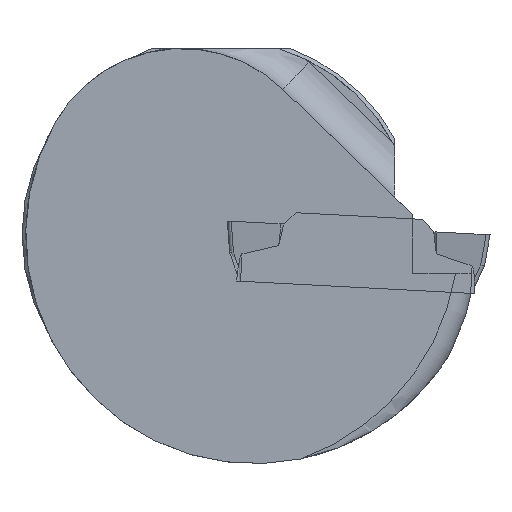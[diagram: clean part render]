
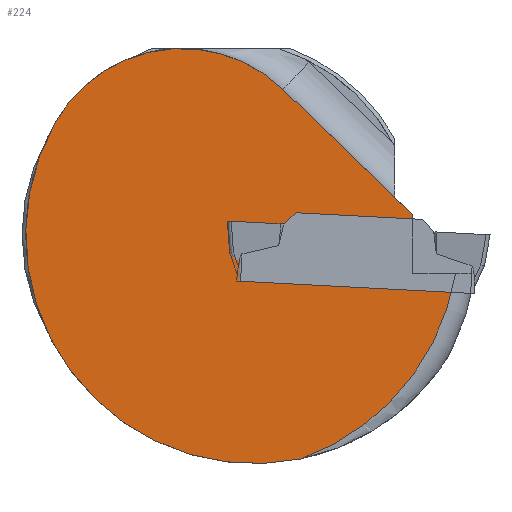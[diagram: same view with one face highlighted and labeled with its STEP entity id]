
A CAD part, left-side view. The second image highlights one B-rep face of the part: STEP entity #224.
In plain terms, the highlighted planar face has unit normal (-1, 0, 0).
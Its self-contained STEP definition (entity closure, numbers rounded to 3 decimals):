
#166=CIRCLE('',#1280,19.);
#167=CIRCLE('',#1281,11.616);
#168=CIRCLE('',#1282,18.275);
#224=ADVANCED_FACE('',(#320),#275,.T.);
#275=PLANE('',#1283);
#320=FACE_OUTER_BOUND('',#379,.T.);
#379=EDGE_LOOP('',(#624,#625,#626,#627,#628,#629));
#624=ORIENTED_EDGE('',*,*,#969,.T.);
#625=ORIENTED_EDGE('',*,*,#970,.T.);
#626=ORIENTED_EDGE('',*,*,#971,.F.);
#627=ORIENTED_EDGE('',*,*,#972,.F.);
#628=ORIENTED_EDGE('',*,*,#973,.F.);
#629=ORIENTED_EDGE('',*,*,#974,.T.);
#828=VERTEX_POINT('',#1887);
#829=VERTEX_POINT('',#1888);
#830=VERTEX_POINT('',#1890);
#831=VERTEX_POINT('',#1892);
#832=VERTEX_POINT('',#1894);
#833=VERTEX_POINT('',#1896);
#969=EDGE_CURVE('',#828,#829,#166,.T.);
#970=EDGE_CURVE('',#829,#830,#1101,.T.);
#971=EDGE_CURVE('',#831,#830,#1102,.T.);
#972=EDGE_CURVE('',#832,#831,#1103,.T.);
#973=EDGE_CURVE('',#833,#832,#167,.T.);
#974=EDGE_CURVE('',#833,#828,#168,.T.);
#1101=LINE('',#1889,#1193);
#1102=LINE('',#1891,#1194);
#1103=LINE('',#1893,#1195);
#1193=VECTOR('',#1531,1.);
#1194=VECTOR('',#1532,1.);
#1195=VECTOR('',#1533,1.);
#1280=AXIS2_PLACEMENT_3D('',#1886,#1529,#1530);
#1281=AXIS2_PLACEMENT_3D('',#1895,#1534,#1535);
#1282=AXIS2_PLACEMENT_3D('',#1897,#1536,#1537);
#1283=AXIS2_PLACEMENT_3D('',#1898,#1538,#1539);
#1529=DIRECTION('',(-1.,0.,0.));
#1530=DIRECTION('',(0.,-1.,0.));
#1531=DIRECTION('',(0.,1.,0.));
#1532=DIRECTION('',(0.,0.,-1.));
#1533=DIRECTION('',(0.,-0.719,-0.695));
#1534=DIRECTION('',(1.,0.,0.));
#1535=DIRECTION('',(0.,-1.,0.));
#1536=DIRECTION('',(-1.,0.,0.));
#1537=DIRECTION('',(0.,-1.,0.));
#1538=DIRECTION('',(-1.,0.,0.));
#1539=DIRECTION('',(0.,-1.,0.));
#1886=CARTESIAN_POINT('',(0.4,21.5,0.));
#1887=CARTESIAN_POINT('',(0.4,15.145,-17.906));
#1888=CARTESIAN_POINT('',(0.4,2.753,-3.093));
#1889=CARTESIAN_POINT('',(0.4,0.9,-3.093));
#1890=CARTESIAN_POINT('',(0.4,6.174,-3.093));
#1891=CARTESIAN_POINT('',(0.4,6.174,0.));
#1892=CARTESIAN_POINT('',(0.4,6.174,1.607));
#1893=CARTESIAN_POINT('',(0.4,2.642,-1.804));
#1894=CARTESIAN_POINT('',(0.4,16.537,11.615));
#1895=CARTESIAN_POINT('',(0.4,24.607,3.259));
#1896=CARTESIAN_POINT('',(0.4,34.737,8.943));
#1897=CARTESIAN_POINT('',(0.4,18.8,0.));
#1898=CARTESIAN_POINT('',(0.4,0.9,0.));
